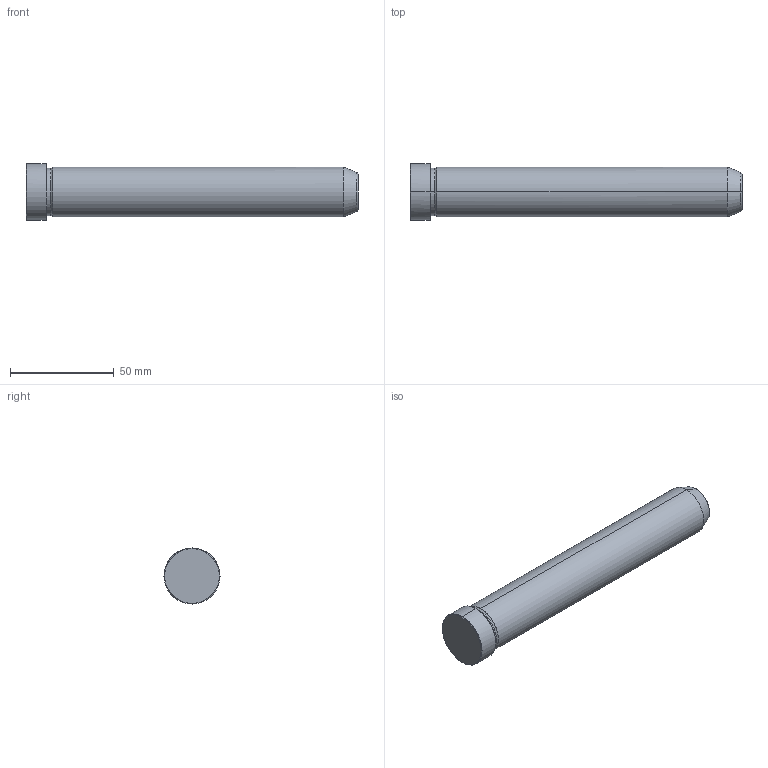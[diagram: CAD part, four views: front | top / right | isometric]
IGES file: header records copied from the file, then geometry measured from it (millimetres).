
Start section: START RECORD GO HERE.
Global section: file name: 549-24X160.igs; native system: DASSAULT SYSTEMES CATIA V5 R20 - www.3ds.com; preprocessor: CATIA Version 5 Release 20 ; author: Utente; organization: NB04-ASUS; date: 20211217.150353; units: millimetre
Bounding box: 160 x 27 x 27 mm (x, y, z)
Surface area: 13088.9 mm2 (no closed solid volume)
Topology: 0 solids, 0 shells, 19 faces, 112 edges, 112 vertices
Faces by surface type: revolution 16, plane 3
